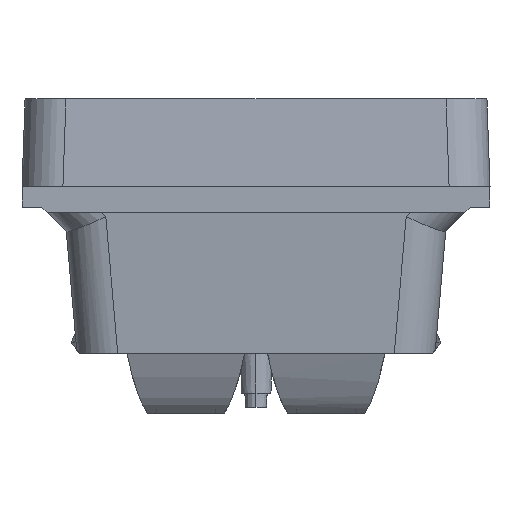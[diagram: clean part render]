
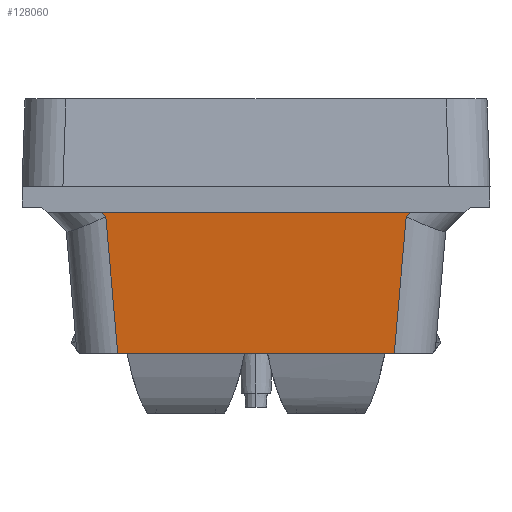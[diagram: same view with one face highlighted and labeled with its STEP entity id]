
A CAD part, left-side view. The second image highlights one B-rep face of the part: STEP entity #128060.
In plain terms, the highlighted planar face has unit normal (-0.996, 0, -0.087) as drawn and (0.996, 0.087, 0) by its records, which use the part's own axes.
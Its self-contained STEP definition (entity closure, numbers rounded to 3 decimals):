
#127420=CARTESIAN_POINT('',(-248.15,2.303,
0.85));
#127430=DIRECTION('',(-0.996,-0.087,
0.));
#127440=DIRECTION('',(-0.087,0.996,0.));
#127450=AXIS2_PLACEMENT_3D('',#127420,#127430,#127440);
#127460=PLANE('',#127450);
#127470=CARTESIAN_POINT('',(-248.15,2.303,
0.85));
#127480=DIRECTION('',(0.061,-0.706,
0.706));
#127490=VECTOR('',#127480,1.);
#127500=LINE('',#127470,#127490);
#127510=CARTESIAN_POINT('',(-247.106,-9.685,
12.839));
#127520=VERTEX_POINT('',#127510);
#127530=CARTESIAN_POINT('',(-247.075,-10.05,
13.204));
#127540=VERTEX_POINT('',#127530);
#127550=EDGE_CURVE('',#127520,#127540,#127500,.T.);
#127560=ORIENTED_EDGE('',*,*,#127550,.T.);
#127570=CARTESIAN_POINT('',(-248.15,2.303,
11.79));
#127580=DIRECTION('',(-0.086,0.992,
-0.087));
#127590=VECTOR('',#127580,1.);
#127600=LINE('',#127570,#127590);
#127610=CARTESIAN_POINT('',(-248.123,2.,11.817));
#127620=VERTEX_POINT('',#127610);
#127630=EDGE_CURVE('',#127520,#127620,#127600,.T.);
#127640=ORIENTED_EDGE('',*,*,#127630,.F.);
#127650=CARTESIAN_POINT('',(-248.123,2.,0.));
#127660=DIRECTION('',(0.,0.,1.));
#127670=VECTOR('',#127660,1.);
#127680=LINE('',#127650,#127670);
#127690=CARTESIAN_POINT('',(-248.123,2.,-11.817));
#127700=VERTEX_POINT('',#127690);
#127710=EDGE_CURVE('',#127700,#127620,#127680,.T.);
#127720=ORIENTED_EDGE('',*,*,#127710,.T.);
#127730=CARTESIAN_POINT('',(-248.15,2.303,
-11.79));
#127740=DIRECTION('',(0.086,-0.992,
-0.087));
#127750=VECTOR('',#127740,1.);
#127760=LINE('',#127730,#127750);
#127770=CARTESIAN_POINT('',(-247.106,-9.685,
-12.839));
#127780=VERTEX_POINT('',#127770);
#127790=EDGE_CURVE('',#127700,#127780,#127760,.T.);
#127800=ORIENTED_EDGE('',*,*,#127790,.F.);
#127810=CARTESIAN_POINT('',(-248.15,2.303,
-0.85));
#127820=DIRECTION('',(-0.061,0.706,
0.706));
#127830=VECTOR('',#127820,1.);
#127840=LINE('',#127810,#127830);
#127850=CARTESIAN_POINT('',(-247.106,-9.692,
-12.846));
#127860=VERTEX_POINT('',#127850);
#127870=EDGE_CURVE('',#127860,#127780,#127840,.T.);
#127880=ORIENTED_EDGE('',*,*,#127870,.T.);
#127890=CARTESIAN_POINT('',(-247.075,-10.05,
-13.204));
#127900=CARTESIAN_POINT('',(-247.085,-9.928,
-13.082));
#127910=CARTESIAN_POINT('',(-247.096,-9.807,
-12.961));
#127920=CARTESIAN_POINT('',(-247.106,-9.685,
-12.839));
#127930=B_SPLINE_CURVE_WITH_KNOTS('',3,(#127890,#127900,#127910,#127920)
,.UNSPECIFIED.,.F.,.F.,(4,4),(0.,0.517),.UNSPECIFIED.);
#127940=CARTESIAN_POINT('',(-247.075,-10.05,
-13.204));
#127950=VERTEX_POINT('',#127940);
#127960=EDGE_CURVE('',#127950,#127860,#127930,.T.);
#127970=ORIENTED_EDGE('',*,*,#127960,.T.);
#127980=CARTESIAN_POINT('',(-247.075,-10.05,0.));
#127990=DIRECTION('',(0.,0.,-1.));
#128000=VECTOR('',#127990,1.);
#128010=LINE('',#127980,#128000);
#128020=EDGE_CURVE('',#127540,#127950,#128010,.T.);
#128030=ORIENTED_EDGE('',*,*,#128020,.T.);
#128040=EDGE_LOOP('',(#128030,#127970,#127880,#127800,#127720,#127640,
#127560));
#128050=FACE_OUTER_BOUND('',#128040,.T.);
#128060=ADVANCED_FACE('',(#128050),#127460,.F.);
